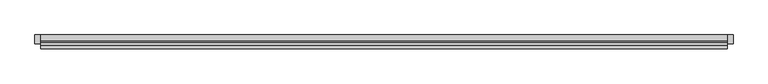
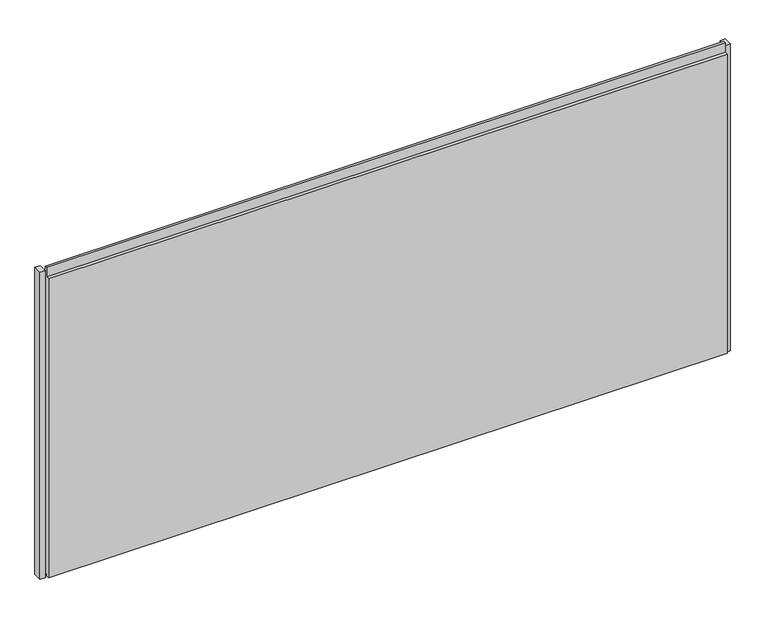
"""IFC4 building model written with IfcOpenShell, lengths in millimetres: plate geometry, Trimo_Qbiss Screen_Normal Panel-HORIZONTAL : HR - B-F."""

from ifc_helpers import new_model, si_unit, frame, origin, place, context, project, spatial, polyline, outline, extrude, source, transform, mapped, element, save


def plate_b385fc11(model_context):
    return source(origin(), model_context, "Body", "SweptSolid", [
        extrude(outline(polyline([(-1276.0, 67.8978162), (-1295.0, 67.8978162), (-1295.0, 100.0), (-1276.0, 100.0), (-1276.0, 67.8978162)])), frame((0.0, 0.0, -1.0), z_axis=(0.0, 0.0, 1.0), x_axis=(1.0, 0.0, 0.0)), (0.0, 0.0, 1.0), 1200.0),
        extrude(outline(polyline([(1259.5, 67.8978162), (1240.5, 67.8978162), (1240.5, 100.0), (1259.5, 100.0), (1259.5, 67.8978162)])), frame((0.0, 0.0, -1.0), z_axis=(0.0, 0.0, 1.0), x_axis=(1.0, 0.0, 0.0)), (0.0, 0.0, 1.0), 1200.0),
        extrude(outline(polyline([(1237.5, 76.0), (1237.5, 71.0), (-1273.0, 71.0), (-1273.0, 76.0), (1237.5, 76.0)])), frame((0.0, 0.0, 1178.0), z_axis=(0.0, 0.0, 1.0), x_axis=(1.0, 0.0, 0.0)), (0.0, 0.0, 1.0), 21.0),
        extrude(outline(polyline([(71.0, 1177.0), (100.0, 1177.0), (100.0, 0.0), (72.0, 0.0), (72.0, 15.5), (62.0, 15.5), (62.0, 7.0), (50.0, 7.0), (50.0, 1177.0), (63.0, 1177.0), (63.0, 1214.5), (71.0, 1214.5), (71.0, 1177.0)])), frame((-1273.0, 0.0, 0.0), z_axis=(1.0, 0.0, 0.0), x_axis=(0.0, 1.0, 0.0)), (0.0, 0.0, 1.0), 2510.5),
    ])


if __name__ == "__main__":
    model = new_model("IFC4")
    model_context = context("Model", 3, world=origin())
    ifc_project = project(units=[si_unit("LENGTHUNIT", "METRE", prefix="MILLI")], contexts=[model_context])
    site = spatial("IfcSite", under=ifc_project)
    building = spatial("IfcBuilding", under=site)
    placement = place(None, origin())
    plate_shape = plate_b385fc11(model_context)
    element("IfcPlate", 1, ObjectType="Trimo_Qbiss Screen_Normal Panel-HORIZONTAL : HR - B-F", at=placement, inside=building, context=model_context, shape_type="MappedRepresentation", body=[
        mapped(plate_shape, transform((0.0, 0.0, 0.0), x_axis=(1.0, 0.0, 0.0), y_axis=(0.0, 1.0, 0.0), z_axis=(0.0, 0.0, 1.0))),
    ])
    save(model, "model.ifc")
